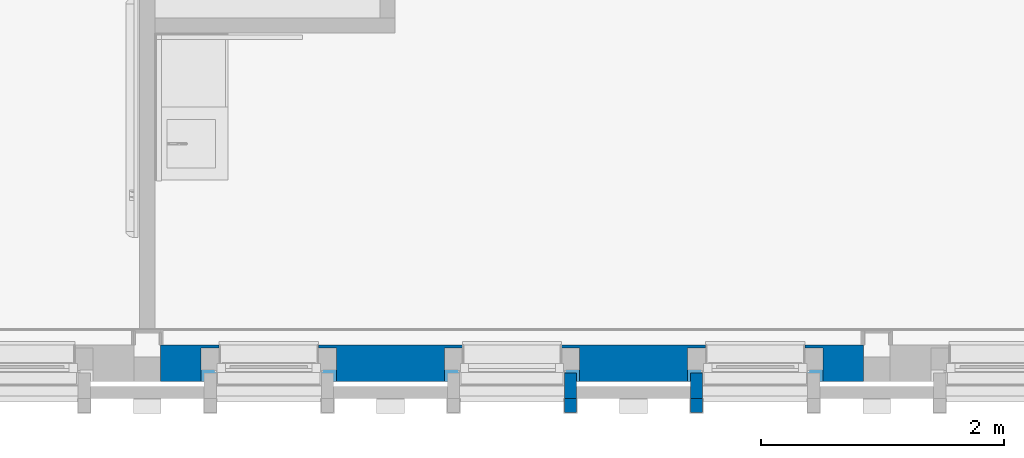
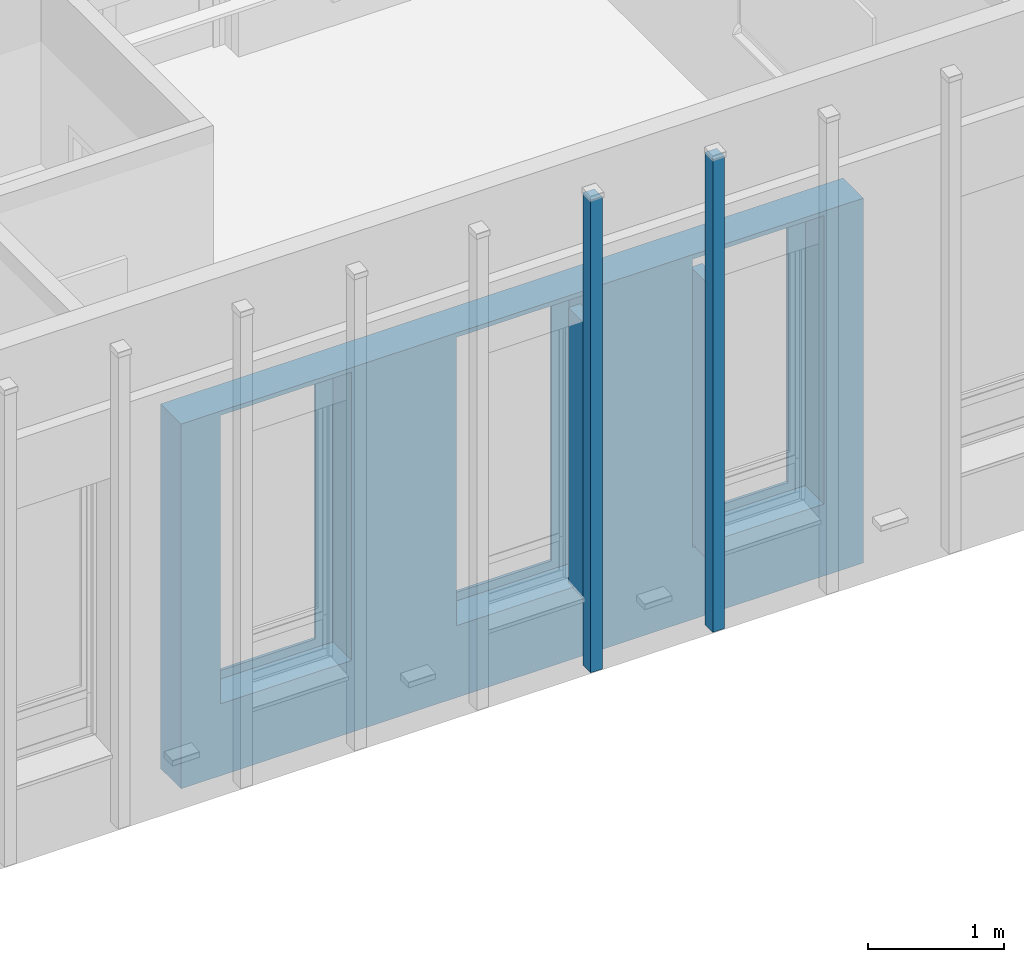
# One storey, part 28 of 118: 5 walls, 12 openings.
"""IFC2X3 building model written with IfcOpenShell, lengths in millimetres."""

from ifc_helpers import new_model, entity, si_unit, converted_unit, derived_unit, direction, frame, frame_2d, origin, place, context, subcontext, project, spatial, rectangle, extrude, faceted_brep, material, layer, layer_set, layer_usage, type_object, element, save


model = new_model("IFC2X3")

# Units and contexts
model_context = context("Model", 3, precision=0.01, world=origin(), true_north=direction((6.123031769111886e-17, 1.0)))
plan_context = context("Plan", 3, precision=0.01, world=origin(), true_north=direction((6.123031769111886e-17, 1.0)))
body_context = subcontext(model_context, "Body", "Model", "MODEL_VIEW")
ifc_project = project(units=[si_unit("LENGTHUNIT", "METRE", prefix="MILLI"), si_unit("AREAUNIT", "SQUARE_METRE"), si_unit("VOLUMEUNIT", "CUBIC_METRE"), converted_unit("PLANEANGLEUNIT", "DEGREE", entity("IfcRatioMeasure", 0.017453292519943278), si_unit("PLANEANGLEUNIT", "RADIAN"), dimensions=[0, 0, 0, 0, 0, 0, 0]), si_unit("MASSUNIT", "GRAM", prefix="KILO"), derived_unit("MASSDENSITYUNIT", [(si_unit("MASSUNIT", "GRAM", prefix="KILO"), 1), (si_unit("LENGTHUNIT", "METRE"), -3)]), derived_unit("IONCONCENTRATIONUNIT", [(si_unit("MASSUNIT", "GRAM", prefix="KILO"), 1), (si_unit("LENGTHUNIT", "METRE"), -3)]), derived_unit("MOMENTOFINERTIAUNIT", [(si_unit("LENGTHUNIT", "METRE"), 4)]), si_unit("TIMEUNIT", "SECOND"), si_unit("FREQUENCYUNIT", "HERTZ"), si_unit("THERMODYNAMICTEMPERATUREUNIT", "DEGREE_CELSIUS"), derived_unit("THERMALTRANSMITTANCEUNIT", [(si_unit("MASSUNIT", "GRAM", prefix="KILO"), 1), (si_unit("THERMODYNAMICTEMPERATUREUNIT", "KELVIN"), -1), (si_unit("TIMEUNIT", "SECOND"), -3)]), derived_unit("THERMALCONDUCTANCEUNIT", [(si_unit("MASSUNIT", "GRAM", prefix="KILO"), 1), (si_unit("THERMODYNAMICTEMPERATUREUNIT", "KELVIN"), -1), (si_unit("TIMEUNIT", "SECOND"), -3), (si_unit("LENGTHUNIT", "METRE"), 1)]), derived_unit("VOLUMETRICFLOWRATEUNIT", [(si_unit("LENGTHUNIT", "METRE"), 3), (si_unit("TIMEUNIT", "SECOND"), -1)]), derived_unit("MASSFLOWRATEUNIT", [(si_unit("MASSUNIT", "GRAM", prefix="KILO"), 1), (si_unit("TIMEUNIT", "SECOND"), -1)]), derived_unit("ROTATIONALFREQUENCYUNIT", [(si_unit("TIMEUNIT", "SECOND"), -1)]), si_unit("ELECTRICCURRENTUNIT", "AMPERE"), si_unit("ELECTRICVOLTAGEUNIT", "VOLT"), si_unit("POWERUNIT", "WATT"), si_unit("FORCEUNIT", "NEWTON", prefix="KILO"), si_unit("ILLUMINANCEUNIT", "LUX"), si_unit("LUMINOUSFLUXUNIT", "LUMEN"), si_unit("LUMINOUSINTENSITYUNIT", "CANDELA"), derived_unit("USERDEFINED", [(si_unit("MASSUNIT", "GRAM", prefix="KILO"), -1), (si_unit("LENGTHUNIT", "METRE"), -2), (si_unit("TIMEUNIT", "SECOND"), 3), (si_unit("LUMINOUSFLUXUNIT", "LUMEN"), 1)]), derived_unit("USERDEFINED", [(si_unit("MASSUNIT", "GRAM", prefix="KILO"), 1), (si_unit("TIMEUNIT", "SECOND"), -3), (si_unit("LENGTHUNIT", "METRE"), 3), (si_unit("ELECTRICCURRENTUNIT", "AMPERE"), -2)]), derived_unit("SOUNDPOWERUNIT", [(si_unit("MASSUNIT", "GRAM", prefix="KILO"), 1), (si_unit("TIMEUNIT", "SECOND"), -3), (si_unit("LENGTHUNIT", "METRE"), 2)]), derived_unit("SOUNDPRESSUREUNIT", [(si_unit("MASSUNIT", "GRAM", prefix="KILO"), 1), (si_unit("LENGTHUNIT", "METRE"), -1), (si_unit("TIMEUNIT", "SECOND"), -2)]), derived_unit("LINEARVELOCITYUNIT", [(si_unit("LENGTHUNIT", "METRE"), 1), (si_unit("TIMEUNIT", "SECOND"), -1)]), si_unit("PRESSUREUNIT", "PASCAL"), derived_unit("USERDEFINED", [(si_unit("MASSUNIT", "GRAM", prefix="KILO"), 1), (si_unit("LENGTHUNIT", "METRE"), -2), (si_unit("TIMEUNIT", "SECOND"), -2)]), derived_unit("LINEARFORCEUNIT", [(si_unit("MASSUNIT", "GRAM", prefix="KILO"), 1), (si_unit("TIMEUNIT", "SECOND"), -2)]), derived_unit("PLANARFORCEUNIT", [(si_unit("MASSUNIT", "GRAM", prefix="KILO"), 1), (si_unit("LENGTHUNIT", "METRE"), -1), (si_unit("TIMEUNIT", "SECOND"), -2)]), derived_unit("SPECIFICHEATCAPACITYUNIT", [(si_unit("THERMODYNAMICTEMPERATUREUNIT", "KELVIN"), -1), (si_unit("LENGTHUNIT", "METRE"), 2), (si_unit("TIMEUNIT", "SECOND"), -2)]), derived_unit("HEATINGVALUEUNIT", [(si_unit("LENGTHUNIT", "METRE"), 2), (si_unit("TIMEUNIT", "SECOND"), -2)]), derived_unit("VAPORPERMEABILITYUNIT", [(si_unit("LENGTHUNIT", "METRE"), -1), (si_unit("TIMEUNIT", "SECOND"), 1)]), derived_unit("DYNAMICVISCOSITYUNIT", [(si_unit("MASSUNIT", "GRAM", prefix="KILO"), 1), (si_unit("TIMEUNIT", "SECOND"), -1), (si_unit("LENGTHUNIT", "METRE"), -1)]), derived_unit("THERMALEXPANSIONCOEFFICIENTUNIT", [(si_unit("THERMODYNAMICTEMPERATUREUNIT", "KELVIN"), -1)]), derived_unit("MODULUSOFELASTICITYUNIT", [(si_unit("MASSUNIT", "GRAM", prefix="KILO"), 1), (si_unit("LENGTHUNIT", "METRE"), -1), (si_unit("TIMEUNIT", "SECOND"), -2)]), derived_unit("ISOTHERMALMOISTURECAPACITYUNIT", [(si_unit("LENGTHUNIT", "METRE"), 3), (si_unit("MASSUNIT", "GRAM", prefix="KILO"), -1)]), derived_unit("MOISTUREDIFFUSIVITYUNIT", [(si_unit("TIMEUNIT", "SECOND"), -1), (si_unit("LENGTHUNIT", "METRE"), 2)])], contexts=[model_context, plan_context])

# Site, building, storey
site_placement = place(None, origin())
site = spatial("IfcSite", under=ifc_project, at=site_placement, Name="Locatie", CompositionType="ELEMENT")
building_placement = place(site_placement, origin())
building = spatial("IfcBuilding", under=site, at=building_placement, Name="Bouwwerk", CompositionType="ELEMENT")
storey_placement = place(building_placement, frame((0.0, 0.0, 7800.0)))
storey = spatial("IfcBuildingStorey", under=building, at=storey_placement, Name="02 tweede verdieping", CompositionType="ELEMENT", Elevation=7800.000000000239)

# Wall, openings
ifc_material_1 = material(Name="n7_isolatie_glaswol")
ifc_layer_1 = layer(ifc_material_1, 30.0)
ifc_layer_2 = layer(ifc_material_1, 245.0)
ifc_material_2 = material(Name="i4_multiplex")
ifc_layer_3 = layer(ifc_material_2, 12.0)
ifc_material_3 = material(Name="f7_gipsvezel")
ifc_layer_4 = layer(ifc_material_3, 13.000000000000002)
ifc_layer_set_1 = layer_set([ifc_layer_1, ifc_layer_2, ifc_layer_3, ifc_layer_4], Name="Basic Wall:NLRS_22_WA_HSB bispouw 30-245-12-13 glaswol_gen_ISR")
ifc_layer_usage_1 = layer_usage(ifc_layer_set_1, "AXIS2", "NEGATIVE", 150.0)
wall_type_1 = type_object("IfcWallType", Name="Basic Wall:NLRS_22_WA_HSB bispouw 30-245-12-13 glaswol_gen_ISR", PredefinedType="STANDARD", material=ifc_layer_set_1)
wall_1_placement = place(storey_placement, frame((22190.0, 9850.0, -30.0), z_axis=(0.0, 0.0, 1.0), x_axis=(-1.0, 0.0, 0.0)))
wall_1 = element("IfcWallStandardCase", 1, at=wall_1_placement, inside=storey, type_object=wall_type_1, material=ifc_layer_usage_1, Name="Basic Wall:NLRS_22_WA_HSB bispouw 30-245-12-13 glaswol_gen_ISR", ObjectType="Basic Wall:NLRS_22_WA_HSB bispouw 30-245-12-13 glaswol_gen_ISR", context=body_context, shape_type="SweptSolid", body=[
    extrude(rectangle(XDim=5780.000000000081, YDim=300.0000000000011, at=frame_2d((2890.0000000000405, 0.0), x_axis=(-1.0, 0.0))), origin(), (0.0, 0.0, 1.0), 3265.9999999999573),
])
opening_1_placement = place(wall_1_placement, frame((-4554.0, 290.0, 633.0)))
element("IfcOpeningElement", 2, at=opening_1_placement, cuts=wall_1, Name="Basic Wall:NLRS_22_WA_HSB bispouw 30-245-12-13 glaswol_gen_ISR", ObjectType="Opening", context=body_context, shape_type="Brep", body=[
    faceted_brep([(-24.0, -100.0, 2472.0), (-103.0, -100.0, 2472.0), (-103.0, -100.0, 42.0), (-1009.0, -100.0, 42.0), (-1009.0, -100.0, 2472.0), (-1088.0, -100.0, 2472.0), (-1088.0, -100.0, 0.0), (-24.0, -100.0, 0.0), (-1088.0, 0.0, 2472.0), (-24.0, 0.0, 2472.0), (-24.0, 0.0, 0.0), (-1088.0, 0.0, 0.0), (-1112.0, -415.0, 2594.0), (-1112.0, -415.0, 11.0), (0.0, -415.0, 11.0), (0.0, -415.0, 2594.0), (-964.0, -415.0, 2443.0), (-148.0, -415.0, 2443.0), (-148.0, -415.0, 87.0), (-964.0, -415.0, 87.0), (-1112.0, -140.0, 2594.0), (0.0, -140.0, 2594.0), (0.0, -140.0, 11.0), (-1112.0, -140.0, 11.0), (-1009.0, -140.0, 42.0), (-103.0, -140.0, 42.0), (-103.0, -140.0, 2508.0), (-1009.0, -140.0, 2508.0), (-103.0, -100.0, 2508.0), (-1009.0, -100.0, 2508.0), (-964.0, -615.0, 2443.0), (-964.0, -615.0, 87.0), (-148.0, -615.0, 87.0), (-148.0, -615.0, 2443.0)], [[[0, 1, 2, 3, 4, 5, 6, 7]], [[8, 9, 10, 11]], [[5, 8, 11, 6]], [[6, 11, 10, 7]], [[7, 10, 9, 0]], [[8, 5, 4, 1, 0, 9]], [[12, 13, 14, 15], [16, 17, 18, 19]], [[20, 21, 22, 23], [24, 25, 26, 27]], [[12, 20, 23, 13]], [[13, 23, 22, 14]], [[14, 22, 21, 15]], [[15, 21, 20, 12]], [[28, 1, 4, 29]], [[24, 27, 29, 4, 3]], [[3, 2, 25, 24]], [[2, 1, 28, 26, 25]], [[29, 27, 26, 28]], [[30, 31, 32, 33]], [[30, 16, 19, 31]], [[31, 19, 18, 32]], [[32, 18, 17, 33]], [[33, 17, 16, 30]]]),
])
opening_2_placement = place(wall_1_placement, frame((-2554.0, 290.0, 633.0)))
element("IfcOpeningElement", 3, at=opening_2_placement, cuts=wall_1, Name="Basic Wall:NLRS_22_WA_HSB bispouw 30-245-12-13 glaswol_gen_ISR", ObjectType="Opening", context=body_context, shape_type="Brep", body=[
    faceted_brep([(-24.0, -100.0, 2472.0), (-103.0, -100.0, 2472.0), (-103.0, -100.0, 42.0), (-1009.0, -100.0, 42.0), (-1009.0, -100.0, 2472.0), (-1088.0, -100.0, 2472.0), (-1088.0, -100.0, 0.0), (-24.0, -100.0, 0.0), (-1088.0, 0.0, 2472.0), (-24.0, 0.0, 2472.0), (-24.0, 0.0, 0.0), (-1088.0, 0.0, 0.0), (-1112.0, -415.0, 2594.0), (-1112.0, -415.0, 11.0), (0.0, -415.0, 11.0), (0.0, -415.0, 2594.0), (-964.0, -415.0, 2443.0), (-148.0, -415.0, 2443.0), (-148.0, -415.0, 87.0), (-964.0, -415.0, 87.0), (-1112.0, -140.0, 2594.0), (0.0, -140.0, 2594.0), (0.0, -140.0, 11.0), (-1112.0, -140.0, 11.0), (-1009.0, -140.0, 42.0), (-103.0, -140.0, 42.0), (-103.0, -140.0, 2508.0), (-1009.0, -140.0, 2508.0), (-103.0, -100.0, 2508.0), (-1009.0, -100.0, 2508.0), (-964.0, -615.0, 2443.0), (-964.0, -615.0, 87.0), (-148.0, -615.0, 87.0), (-148.0, -615.0, 2443.0)], [[[0, 1, 2, 3, 4, 5, 6, 7]], [[8, 9, 10, 11]], [[5, 8, 11, 6]], [[6, 11, 10, 7]], [[7, 10, 9, 0]], [[8, 5, 4, 1, 0, 9]], [[12, 13, 14, 15], [16, 17, 18, 19]], [[20, 21, 22, 23], [24, 25, 26, 27]], [[12, 20, 23, 13]], [[13, 23, 22, 14]], [[14, 22, 21, 15]], [[15, 21, 20, 12]], [[28, 1, 4, 29]], [[24, 27, 29, 4, 3]], [[3, 2, 25, 24]], [[2, 1, 28, 26, 25]], [[29, 27, 26, 28]], [[30, 31, 32, 33]], [[30, 16, 19, 31]], [[31, 19, 18, 32]], [[32, 18, 17, 33]], [[33, 17, 16, 30]]]),
])
opening_3_placement = place(wall_1_placement, frame((-10554.0, 290.0, 633.0)))
element("IfcOpeningElement", 4, at=opening_3_placement, cuts=wall_1, Name="Basic Wall:NLRS_22_WA_HSB bispouw 30-245-12-13 glaswol_gen_ISR", ObjectType="Opening", context=body_context, shape_type="Brep", body=[
    faceted_brep([(-24.0, -100.0, 2472.0), (-103.0, -100.0, 2472.0), (-103.0, -100.0, 42.0), (-1009.0, -100.0, 42.0), (-1009.0, -100.0, 2472.0), (-1088.0, -100.0, 2472.0), (-1088.0, -100.0, 0.0), (-24.0, -100.0, 0.0), (-1088.0, 0.0, 2472.0), (-24.0, 0.0, 2472.0), (-24.0, 0.0, 0.0), (-1088.0, 0.0, 0.0), (-1112.0, -415.0, 2594.0), (-1112.0, -415.0, 11.0), (0.0, -415.0, 11.0), (0.0, -415.0, 2594.0), (-964.0, -415.0, 2443.0), (-148.0, -415.0, 2443.0), (-148.0, -415.0, 87.0), (-964.0, -415.0, 87.0), (-1112.0, -140.0, 2594.0), (0.0, -140.0, 2594.0), (0.0, -140.0, 11.0), (-1112.0, -140.0, 11.0), (-1009.0, -140.0, 42.0), (-103.0, -140.0, 42.0), (-103.0, -140.0, 2508.0), (-1009.0, -140.0, 2508.0), (-103.0, -100.0, 2508.0), (-1009.0, -100.0, 2508.0), (-964.0, -615.0, 2443.0), (-964.0, -615.0, 87.0), (-148.0, -615.0, 87.0), (-148.0, -615.0, 2443.0)], [[[0, 1, 2, 3, 4, 5, 6, 7]], [[8, 9, 10, 11]], [[5, 8, 11, 6]], [[6, 11, 10, 7]], [[7, 10, 9, 0]], [[8, 5, 4, 1, 0, 9]], [[12, 13, 14, 15], [16, 17, 18, 19]], [[20, 21, 22, 23], [24, 25, 26, 27]], [[12, 20, 23, 13]], [[13, 23, 22, 14]], [[14, 22, 21, 15]], [[15, 21, 20, 12]], [[28, 1, 4, 29]], [[24, 27, 29, 4, 3]], [[3, 2, 25, 24]], [[2, 1, 28, 26, 25]], [[29, 27, 26, 28]], [[30, 31, 32, 33]], [[30, 16, 19, 31]], [[31, 19, 18, 32]], [[32, 18, 17, 33]], [[33, 17, 16, 30]]]),
])
opening_4_placement = place(wall_1_placement, frame((-8554.0, 290.0, 633.0)))
element("IfcOpeningElement", 5, at=opening_4_placement, cuts=wall_1, Name="Basic Wall:NLRS_22_WA_HSB bispouw 30-245-12-13 glaswol_gen_ISR", ObjectType="Opening", context=body_context, shape_type="Brep", body=[
    faceted_brep([(-24.0, -100.0, 2472.0), (-103.0, -100.0, 2472.0), (-103.0, -100.0, 42.0), (-1009.0, -100.0, 42.0), (-1009.0, -100.0, 2472.0), (-1088.0, -100.0, 2472.0), (-1088.0, -100.0, 0.0), (-24.0, -100.0, 0.0), (-1088.0, 0.0, 2472.0), (-24.0, 0.0, 2472.0), (-24.0, 0.0, 0.0), (-1088.0, 0.0, 0.0), (-1112.0, -415.0, 2594.0), (-1112.0, -415.0, 11.0), (0.0, -415.0, 11.0), (0.0, -415.0, 2594.0), (-964.0, -415.0, 2443.0), (-148.0, -415.0, 2443.0), (-148.0, -415.0, 87.0), (-964.0, -415.0, 87.0), (-1112.0, -140.0, 2594.0), (0.0, -140.0, 2594.0), (0.0, -140.0, 11.0), (-1112.0, -140.0, 11.0), (-1009.0, -140.0, 42.0), (-103.0, -140.0, 42.0), (-103.0, -140.0, 2508.0), (-1009.0, -140.0, 2508.0), (-103.0, -100.0, 2508.0), (-1009.0, -100.0, 2508.0), (-964.0, -615.0, 2443.0), (-964.0, -615.0, 87.0), (-148.0, -615.0, 87.0), (-148.0, -615.0, 2443.0)], [[[0, 1, 2, 3, 4, 5, 6, 7]], [[8, 9, 10, 11]], [[5, 8, 11, 6]], [[6, 11, 10, 7]], [[7, 10, 9, 0]], [[8, 5, 4, 1, 0, 9]], [[12, 13, 14, 15], [16, 17, 18, 19]], [[20, 21, 22, 23], [24, 25, 26, 27]], [[12, 20, 23, 13]], [[13, 23, 22, 14]], [[14, 22, 21, 15]], [[15, 21, 20, 12]], [[28, 1, 4, 29]], [[24, 27, 29, 4, 3]], [[3, 2, 25, 24]], [[2, 1, 28, 26, 25]], [[29, 27, 26, 28]], [[30, 31, 32, 33]], [[30, 16, 19, 31]], [[31, 19, 18, 32]], [[32, 18, 17, 33]], [[33, 17, 16, 30]]]),
])
opening_5_placement = place(wall_1_placement, frame((-6554.0, 290.0, 633.0)))
element("IfcOpeningElement", 6, at=opening_5_placement, cuts=wall_1, Name="Basic Wall:NLRS_22_WA_HSB bispouw 30-245-12-13 glaswol_gen_ISR", ObjectType="Opening", context=body_context, shape_type="Brep", body=[
    faceted_brep([(-24.0, -100.0, 2472.0), (-103.0, -100.0, 2472.0), (-103.0, -100.0, 42.0), (-1009.0, -100.0, 42.0), (-1009.0, -100.0, 2472.0), (-1088.0, -100.0, 2472.0), (-1088.0, -100.0, 0.0), (-24.0, -100.0, 0.0), (-1088.0, 0.0, 2472.0), (-24.0, 0.0, 2472.0), (-24.0, 0.0, 0.0), (-1088.0, 0.0, 0.0), (-1112.0, -415.0, 2594.0), (-1112.0, -415.0, 11.0), (0.0, -415.0, 11.0), (0.0, -415.0, 2594.0), (-964.0, -415.0, 2443.0), (-148.0, -415.0, 2443.0), (-148.0, -415.0, 87.0), (-964.0, -415.0, 87.0), (-1112.0, -140.0, 2594.0), (0.0, -140.0, 2594.0), (0.0, -140.0, 11.0), (-1112.0, -140.0, 11.0), (-1009.0, -140.0, 42.0), (-103.0, -140.0, 42.0), (-103.0, -140.0, 2508.0), (-1009.0, -140.0, 2508.0), (-103.0, -100.0, 2508.0), (-1009.0, -100.0, 2508.0), (-964.0, -615.0, 2443.0), (-964.0, -615.0, 87.0), (-148.0, -615.0, 87.0), (-148.0, -615.0, 2443.0)], [[[0, 1, 2, 3, 4, 5, 6, 7]], [[8, 9, 10, 11]], [[5, 8, 11, 6]], [[6, 11, 10, 7]], [[7, 10, 9, 0]], [[8, 5, 4, 1, 0, 9]], [[12, 13, 14, 15], [16, 17, 18, 19]], [[20, 21, 22, 23], [24, 25, 26, 27]], [[12, 20, 23, 13]], [[13, 23, 22, 14]], [[14, 22, 21, 15]], [[15, 21, 20, 12]], [[28, 1, 4, 29]], [[24, 27, 29, 4, 3]], [[3, 2, 25, 24]], [[2, 1, 28, 26, 25]], [[29, 27, 26, 28]], [[30, 31, 32, 33]], [[30, 16, 19, 31]], [[31, 19, 18, 32]], [[32, 18, 17, 33]], [[33, 17, 16, 30]]]),
])
opening_6_placement = place(wall_1_placement, frame((7446.0, 290.0, 633.0)))
element("IfcOpeningElement", 7, at=opening_6_placement, cuts=wall_1, Name="Basic Wall:NLRS_22_WA_HSB bispouw 30-245-12-13 glaswol_gen_ISR", ObjectType="Opening", context=body_context, shape_type="Brep", body=[
    faceted_brep([(-24.0, -100.0, 2472.0), (-103.0, -100.0, 2472.0), (-103.0, -100.0, 42.0), (-1009.0, -100.0, 42.0), (-1009.0, -100.0, 2472.0), (-1088.0, -100.0, 2472.0), (-1088.0, -100.0, 0.0), (-24.0, -100.0, 0.0), (-1088.0, 0.0, 2472.0), (-24.0, 0.0, 2472.0), (-24.0, 0.0, 0.0), (-1088.0, 0.0, 0.0), (-1112.0, -415.0, 2594.0), (-1112.0, -415.0, 11.0), (0.0, -415.0, 11.0), (0.0, -415.0, 2594.0), (-964.0, -415.0, 2443.0), (-148.0, -415.0, 2443.0), (-148.0, -415.0, 87.0), (-964.0, -415.0, 87.0), (-1112.0, -140.0, 2594.0), (0.0, -140.0, 2594.0), (0.0, -140.0, 11.0), (-1112.0, -140.0, 11.0), (-1009.0, -140.0, 42.0), (-103.0, -140.0, 42.0), (-103.0, -140.0, 2508.0), (-1009.0, -140.0, 2508.0), (-103.0, -100.0, 2508.0), (-1009.0, -100.0, 2508.0), (-964.0, -615.0, 2443.0), (-964.0, -615.0, 87.0), (-148.0, -615.0, 87.0), (-148.0, -615.0, 2443.0)], [[[0, 1, 2, 3, 4, 5, 6, 7]], [[8, 9, 10, 11]], [[5, 8, 11, 6]], [[6, 11, 10, 7]], [[7, 10, 9, 0]], [[8, 5, 4, 1, 0, 9]], [[12, 13, 14, 15], [16, 17, 18, 19]], [[20, 21, 22, 23], [24, 25, 26, 27]], [[12, 20, 23, 13]], [[13, 23, 22, 14]], [[14, 22, 21, 15]], [[15, 21, 20, 12]], [[28, 1, 4, 29]], [[24, 27, 29, 4, 3]], [[3, 2, 25, 24]], [[2, 1, 28, 26, 25]], [[29, 27, 26, 28]], [[30, 31, 32, 33]], [[30, 16, 19, 31]], [[31, 19, 18, 32]], [[32, 18, 17, 33]], [[33, 17, 16, 30]]]),
])
opening_7_placement = place(wall_1_placement, frame((9446.0, 290.0, 633.0)))
element("IfcOpeningElement", 8, at=opening_7_placement, cuts=wall_1, Name="Basic Wall:NLRS_22_WA_HSB bispouw 30-245-12-13 glaswol_gen_ISR", ObjectType="Opening", context=body_context, shape_type="Brep", body=[
    faceted_brep([(-24.0, -100.0, 2472.0), (-103.0, -100.0, 2472.0), (-103.0, -100.0, 42.0), (-1009.0, -100.0, 42.0), (-1009.0, -100.0, 2472.0), (-1088.0, -100.0, 2472.0), (-1088.0, -100.0, 0.0), (-24.0, -100.0, 0.0), (-1088.0, 0.0, 2472.0), (-24.0, 0.0, 2472.0), (-24.0, 0.0, 0.0), (-1088.0, 0.0, 0.0), (-1112.0, -415.0, 2594.0), (-1112.0, -415.0, 11.0), (0.0, -415.0, 11.0), (0.0, -415.0, 2594.0), (-964.0, -415.0, 2443.0), (-148.0, -415.0, 2443.0), (-148.0, -415.0, 87.0), (-964.0, -415.0, 87.0), (-1112.0, -140.0, 2594.0), (0.0, -140.0, 2594.0), (0.0, -140.0, 11.0), (-1112.0, -140.0, 11.0), (-1009.0, -140.0, 42.0), (-103.0, -140.0, 42.0), (-103.0, -140.0, 2508.0), (-1009.0, -140.0, 2508.0), (-103.0, -100.0, 2508.0), (-1009.0, -100.0, 2508.0), (-964.0, -615.0, 2443.0), (-964.0, -615.0, 87.0), (-148.0, -615.0, 87.0), (-148.0, -615.0, 2443.0)], [[[0, 1, 2, 3, 4, 5, 6, 7]], [[8, 9, 10, 11]], [[5, 8, 11, 6]], [[6, 11, 10, 7]], [[7, 10, 9, 0]], [[8, 5, 4, 1, 0, 9]], [[12, 13, 14, 15], [16, 17, 18, 19]], [[20, 21, 22, 23], [24, 25, 26, 27]], [[12, 20, 23, 13]], [[13, 23, 22, 14]], [[14, 22, 21, 15]], [[15, 21, 20, 12]], [[28, 1, 4, 29]], [[24, 27, 29, 4, 3]], [[3, 2, 25, 24]], [[2, 1, 28, 26, 25]], [[29, 27, 26, 28]], [[30, 31, 32, 33]], [[30, 16, 19, 31]], [[31, 19, 18, 32]], [[32, 18, 17, 33]], [[33, 17, 16, 30]]]),
])
opening_8_placement = place(wall_1_placement, frame((11446.0, 290.0, 633.0)))
element("IfcOpeningElement", 9, at=opening_8_placement, cuts=wall_1, Name="Basic Wall:NLRS_22_WA_HSB bispouw 30-245-12-13 glaswol_gen_ISR", ObjectType="Opening", context=body_context, shape_type="Brep", body=[
    faceted_brep([(-24.0, -100.0, 2472.0), (-103.0, -100.0, 2472.0), (-103.0, -100.0, 42.0), (-1009.0, -100.0, 42.0), (-1009.0, -100.0, 2472.0), (-1088.0, -100.0, 2472.0), (-1088.0, -100.0, 0.0), (-24.0, -100.0, 0.0), (-1088.0, 0.0, 2472.0), (-24.0, 0.0, 2472.0), (-24.0, 0.0, 0.0), (-1088.0, 0.0, 0.0), (-1112.0, -415.0, 2594.0), (-1112.0, -415.0, 11.0), (0.0, -415.0, 11.0), (0.0, -415.0, 2594.0), (-964.0, -415.0, 2443.0), (-148.0, -415.0, 2443.0), (-148.0, -415.0, 87.0), (-964.0, -415.0, 87.0), (-1112.0, -140.0, 2594.0), (0.0, -140.0, 2594.0), (0.0, -140.0, 11.0), (-1112.0, -140.0, 11.0), (-1009.0, -140.0, 42.0), (-103.0, -140.0, 42.0), (-103.0, -140.0, 2508.0), (-1009.0, -140.0, 2508.0), (-103.0, -100.0, 2508.0), (-1009.0, -100.0, 2508.0), (-964.0, -615.0, 2443.0), (-964.0, -615.0, 87.0), (-148.0, -615.0, 87.0), (-148.0, -615.0, 2443.0)], [[[0, 1, 2, 3, 4, 5, 6, 7]], [[8, 9, 10, 11]], [[5, 8, 11, 6]], [[6, 11, 10, 7]], [[7, 10, 9, 0]], [[8, 5, 4, 1, 0, 9]], [[12, 13, 14, 15], [16, 17, 18, 19]], [[20, 21, 22, 23], [24, 25, 26, 27]], [[12, 20, 23, 13]], [[13, 23, 22, 14]], [[14, 22, 21, 15]], [[15, 21, 20, 12]], [[28, 1, 4, 29]], [[24, 27, 29, 4, 3]], [[3, 2, 25, 24]], [[2, 1, 28, 26, 25]], [[29, 27, 26, 28]], [[30, 31, 32, 33]], [[30, 16, 19, 31]], [[31, 19, 18, 32]], [[32, 18, 17, 33]], [[33, 17, 16, 30]]]),
])
opening_9_placement = place(wall_1_placement, frame((-554.0, 290.0, 633.0)))
element("IfcOpeningElement", 10, at=opening_9_placement, cuts=wall_1, Name="Basic Wall:NLRS_22_WA_HSB bispouw 30-245-12-13 glaswol_gen_ISR", ObjectType="Opening", context=body_context, shape_type="Brep", body=[
    faceted_brep([(-24.0, -100.0, 2472.0), (-103.0, -100.0, 2472.0), (-103.0, -100.0, 42.0), (-1009.0, -100.0, 42.0), (-1009.0, -100.0, 2472.0), (-1088.0, -100.0, 2472.0), (-1088.0, -100.0, 0.0), (-24.0, -100.0, 0.0), (-1088.0, 0.0, 2472.0), (-24.0, 0.0, 2472.0), (-24.0, 0.0, 0.0), (-1088.0, 0.0, 0.0), (-1112.0, -415.0, 2594.0), (-1112.0, -415.0, 11.0), (0.0, -415.0, 11.0), (0.0, -415.0, 2594.0), (-964.0, -415.0, 2443.0), (-148.0, -415.0, 2443.0), (-148.0, -415.0, 87.0), (-964.0, -415.0, 87.0), (-1112.0, -140.0, 2594.0), (0.0, -140.0, 2594.0), (0.0, -140.0, 11.0), (-1112.0, -140.0, 11.0), (-1009.0, -140.0, 42.0), (-103.0, -140.0, 42.0), (-103.0, -140.0, 2508.0), (-1009.0, -140.0, 2508.0), (-103.0, -100.0, 2508.0), (-1009.0, -100.0, 2508.0), (-964.0, -615.0, 2443.0), (-964.0, -615.0, 87.0), (-148.0, -615.0, 87.0), (-148.0, -615.0, 2443.0)], [[[0, 1, 2, 3, 4, 5, 6, 7]], [[8, 9, 10, 11]], [[5, 8, 11, 6]], [[6, 11, 10, 7]], [[7, 10, 9, 0]], [[8, 5, 4, 1, 0, 9]], [[12, 13, 14, 15], [16, 17, 18, 19]], [[20, 21, 22, 23], [24, 25, 26, 27]], [[12, 20, 23, 13]], [[13, 23, 22, 14]], [[14, 22, 21, 15]], [[15, 21, 20, 12]], [[28, 1, 4, 29]], [[24, 27, 29, 4, 3]], [[3, 2, 25, 24]], [[2, 1, 28, 26, 25]], [[29, 27, 26, 28]], [[30, 31, 32, 33]], [[30, 16, 19, 31]], [[31, 19, 18, 32]], [[32, 18, 17, 33]], [[33, 17, 16, 30]]]),
])
opening_10_placement = place(wall_1_placement, frame((5446.0, 290.0, 633.0), z_axis=(0.0, 0.0, 1.0), x_axis=(-1.0, 0.0, 0.0)))
element("IfcOpeningElement", 11, at=opening_10_placement, cuts=wall_1, Name="Basic Wall:NLRS_22_WA_HSB bispouw 30-245-12-13 glaswol_gen_ISR", ObjectType="Opening", context=body_context, shape_type="Brep", body=[
    faceted_brep([(24.0, 100.0, 2472.0), (103.0, 100.0, 2472.0), (103.0, 100.0, 42.0), (1009.0, 100.0, 42.0), (1009.0, 100.0, 2472.0), (1088.0, 100.0, 2472.0), (1088.0, 100.0, 0.0), (24.0, 100.0, 0.0), (1088.0, 0.0, 2472.0), (24.0, 0.0, 2472.0), (24.0, 0.0, 0.0), (1088.0, 0.0, 0.0), (1112.0, 415.0, 2594.0), (1112.0, 415.0, 11.0), (0.0, 415.0, 11.0), (0.0, 415.0, 2594.0), (964.0, 415.0, 2443.0), (148.0, 415.0, 2443.0), (148.0, 415.0, 87.0), (964.0, 415.0, 87.0), (1112.0, 140.0, 2594.0), (0.0, 140.0, 2594.0), (0.0, 140.0, 11.0), (1112.0, 140.0, 11.0), (1009.0, 140.0, 42.0), (103.0, 140.0, 42.0), (103.0, 140.0, 2508.0), (1009.0, 140.0, 2508.0), (103.0, 100.0, 2508.0), (1009.0, 100.0, 2508.0), (964.0, 615.0, 2443.0), (964.0, 615.0, 87.0), (148.0, 615.0, 87.0), (148.0, 615.0, 2443.0)], [[[0, 1, 2, 3, 4, 5, 6, 7]], [[8, 9, 10, 11]], [[5, 8, 11, 6]], [[6, 11, 10, 7]], [[7, 10, 9, 0]], [[8, 5, 4, 1, 0, 9]], [[12, 13, 14, 15], [16, 17, 18, 19]], [[20, 21, 22, 23], [24, 25, 26, 27]], [[12, 20, 23, 13]], [[13, 23, 22, 14]], [[14, 22, 21, 15]], [[15, 21, 20, 12]], [[28, 1, 4, 29]], [[24, 27, 29, 4, 3]], [[3, 2, 25, 24]], [[2, 1, 28, 26, 25]], [[29, 27, 26, 28]], [[30, 31, 32, 33]], [[30, 16, 19, 31]], [[31, 19, 18, 32]], [[32, 18, 17, 33]], [[33, 17, 16, 30]]]),
])
opening_11_placement = place(wall_1_placement, frame((3446.0, 290.0, 633.0), z_axis=(0.0, 0.0, 1.0), x_axis=(-1.0, 0.0, 0.0)))
element("IfcOpeningElement", 12, at=opening_11_placement, cuts=wall_1, Name="Basic Wall:NLRS_22_WA_HSB bispouw 30-245-12-13 glaswol_gen_ISR", ObjectType="Opening", context=body_context, shape_type="Brep", body=[
    faceted_brep([(24.0, 100.0, 2472.0), (103.0, 100.0, 2472.0), (103.0, 100.0, 42.0), (1009.0, 100.0, 42.0), (1009.0, 100.0, 2472.0), (1088.0, 100.0, 2472.0), (1088.0, 100.0, 0.0), (24.0, 100.0, 0.0), (1088.0, 0.0, 2472.0), (24.0, 0.0, 2472.0), (24.0, 0.0, 0.0), (1088.0, 0.0, 0.0), (1112.0, 415.0, 2594.0), (1112.0, 415.0, 11.0), (0.0, 415.0, 11.0), (0.0, 415.0, 2594.0), (964.0, 415.0, 2443.0), (148.0, 415.0, 2443.0), (148.0, 415.0, 87.0), (964.0, 415.0, 87.0), (1112.0, 140.0, 2594.0), (0.0, 140.0, 2594.0), (0.0, 140.0, 11.0), (1112.0, 140.0, 11.0), (1009.0, 140.0, 42.0), (103.0, 140.0, 42.0), (103.0, 140.0, 2508.0), (1009.0, 140.0, 2508.0), (103.0, 100.0, 2508.0), (1009.0, 100.0, 2508.0), (964.0, 615.0, 2443.0), (964.0, 615.0, 87.0), (148.0, 615.0, 87.0), (148.0, 615.0, 2443.0)], [[[0, 1, 2, 3, 4, 5, 6, 7]], [[8, 9, 10, 11]], [[5, 8, 11, 6]], [[6, 11, 10, 7]], [[7, 10, 9, 0]], [[8, 5, 4, 1, 0, 9]], [[12, 13, 14, 15], [16, 17, 18, 19]], [[20, 21, 22, 23], [24, 25, 26, 27]], [[12, 20, 23, 13]], [[13, 23, 22, 14]], [[14, 22, 21, 15]], [[15, 21, 20, 12]], [[28, 1, 4, 29]], [[24, 27, 29, 4, 3]], [[3, 2, 25, 24]], [[2, 1, 28, 26, 25]], [[29, 27, 26, 28]], [[30, 31, 32, 33]], [[30, 16, 19, 31]], [[31, 19, 18, 32]], [[32, 18, 17, 33]], [[33, 17, 16, 30]]]),
])
opening_12_placement = place(wall_1_placement, frame((1446.0, 290.0, 633.0), z_axis=(0.0, 0.0, 1.0), x_axis=(-1.0, 0.0, 0.0)))
element("IfcOpeningElement", 13, at=opening_12_placement, cuts=wall_1, Name="Basic Wall:NLRS_22_WA_HSB bispouw 30-245-12-13 glaswol_gen_ISR", ObjectType="Opening", context=body_context, shape_type="Brep", body=[
    faceted_brep([(24.0, 100.0, 2472.0), (103.0, 100.0, 2472.0), (103.0, 100.0, 42.0), (1009.0, 100.0, 42.0), (1009.0, 100.0, 2472.0), (1088.0, 100.0, 2472.0), (1088.0, 100.0, 0.0), (24.0, 100.0, 0.0), (1088.0, 0.0, 2472.0), (24.0, 0.0, 2472.0), (24.0, 0.0, 0.0), (1088.0, 0.0, 0.0), (1112.0, 415.0, 2594.0), (1112.0, 415.0, 11.0), (0.0, 415.0, 11.0), (0.0, 415.0, 2594.0), (964.0, 415.0, 2443.0), (148.0, 415.0, 2443.0), (148.0, 415.0, 87.0), (964.0, 415.0, 87.0), (1112.0, 140.0, 2594.0), (0.0, 140.0, 2594.0), (0.0, 140.0, 11.0), (1112.0, 140.0, 11.0), (1009.0, 140.0, 42.0), (103.0, 140.0, 42.0), (103.0, 140.0, 2508.0), (1009.0, 140.0, 2508.0), (103.0, 100.0, 2508.0), (1009.0, 100.0, 2508.0), (964.0, 615.0, 2443.0), (964.0, 615.0, 87.0), (148.0, 615.0, 87.0), (148.0, 615.0, 2443.0)], [[[0, 1, 2, 3, 4, 5, 6, 7]], [[8, 9, 10, 11]], [[5, 8, 11, 6]], [[6, 11, 10, 7]], [[7, 10, 9, 0]], [[8, 5, 4, 1, 0, 9]], [[12, 13, 14, 15], [16, 17, 18, 19]], [[20, 21, 22, 23], [24, 25, 26, 27]], [[12, 20, 23, 13]], [[13, 23, 22, 14]], [[14, 22, 21, 15]], [[15, 21, 20, 12]], [[28, 1, 4, 29]], [[24, 27, 29, 4, 3]], [[3, 2, 25, 24]], [[2, 1, 28, 26, 25]], [[29, 27, 26, 28]], [[30, 31, 32, 33]], [[30, 16, 19, 31]], [[31, 19, 18, 32]], [[32, 18, 17, 33]], [[33, 17, 16, 30]]]),
])

# Walls
ifc_material_4 = material(Name="g2_metselwerk_geel licht")
ifc_layer_5 = layer(ifc_material_4, 100.0)
ifc_layer_set_2 = layer_set([ifc_layer_5], Name="Basic Wall:21_WA_metselwerk_licht_100_gen_bdg")
ifc_layer_usage_2 = layer_usage(ifc_layer_set_2, "AXIS2", "NEGATIVE", 50.0)
wall_type_2 = type_object("IfcWallType", Name="Basic Wall:21_WA_metselwerk_licht_100_gen_bdg", PredefinedType="STANDARD", material=ifc_layer_set_2)
wall_2_placement = place(storey_placement, frame((20818.0, 9770.0, 603.0), z_axis=(0.0, 0.0, 1.0), x_axis=(0.0, -1.0, 0.0)))
element("IfcWallStandardCase", 14, at=wall_2_placement, inside=storey, type_object=wall_type_2, material=ifc_layer_usage_2, Name="Basic Wall:21_WA_metselwerk_licht_100_gen_bdg", ObjectType="Basic Wall:21_WA_metselwerk_licht_100_gen_bdg", context=body_context, shape_type="SweptSolid", body=[
    extrude(rectangle(XDim=210.00000000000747, YDim=100.00000000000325, at=frame_2d((105.00000000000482, -1.7053025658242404e-13), x_axis=(-1.0, 0.0))), origin(), (0.0, 0.0, 1.0), 2471.999999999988),
])
wall_3_placement = place(storey_placement, frame((20818.0, 9560.0, 0.0), z_axis=(0.0, 0.0, 1.0), x_axis=(0.0, -1.0, 0.0)))
element("IfcWallStandardCase", 15, at=wall_3_placement, inside=storey, type_object=wall_type_2, material=ifc_layer_usage_2, Name="Basic Wall:21_WA_metselwerk_licht_100_gen_bdg", ObjectType="Basic Wall:21_WA_metselwerk_licht_100_gen_bdg", context=body_context, shape_type="SweptSolid", body=[
    extrude(rectangle(XDim=115.00000000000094, YDim=100.00000000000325, at=frame_2d((57.50000000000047, 3.730349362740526e-13), x_axis=(-1.0, 0.0))), origin(), (0.0, 0.0, 1.0), 4232.000000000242),
])
ifc_layer_usage_3 = layer_usage(ifc_layer_set_2, "AXIS2", "POSITIVE", -50.0)
wall_4_placement = place(storey_placement, frame((19782.0, 9770.0, 603.0), z_axis=(0.0, 0.0, 1.0), x_axis=(0.0, -1.0, 0.0)))
element("IfcWallStandardCase", 16, at=wall_4_placement, inside=storey, type_object=wall_type_2, material=ifc_layer_usage_3, Name="Basic Wall:21_WA_metselwerk_licht_100_gen_bdg", ObjectType="Basic Wall:21_WA_metselwerk_licht_100_gen_bdg", context=body_context, shape_type="SweptSolid", body=[
    extrude(rectangle(XDim=210.00000000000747, YDim=100.00000000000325, at=frame_2d((105.00000000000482, 1.3145040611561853e-12), x_axis=(-1.0, 0.0))), origin(), (0.0, 0.0, 1.0), 2471.999999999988),
])
wall_5_placement = place(storey_placement, frame((19782.0, 9560.0, 0.0), z_axis=(0.0, 0.0, 1.0), x_axis=(0.0, -1.0, 0.0)))
element("IfcWallStandardCase", 17, at=wall_5_placement, inside=storey, type_object=wall_type_2, material=ifc_layer_usage_3, Name="Basic Wall:21_WA_metselwerk_licht_100_gen_bdg", ObjectType="Basic Wall:21_WA_metselwerk_licht_100_gen_bdg", context=body_context, shape_type="SweptSolid", body=[
    extrude(rectangle(XDim=115.00000000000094, YDim=100.00000000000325, at=frame_2d((57.50000000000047, 3.730349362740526e-13), x_axis=(-1.0, 0.0))), origin(), (0.0, 0.0, 1.0), 4231.99999999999),
])

save(model, "model.ifc")
